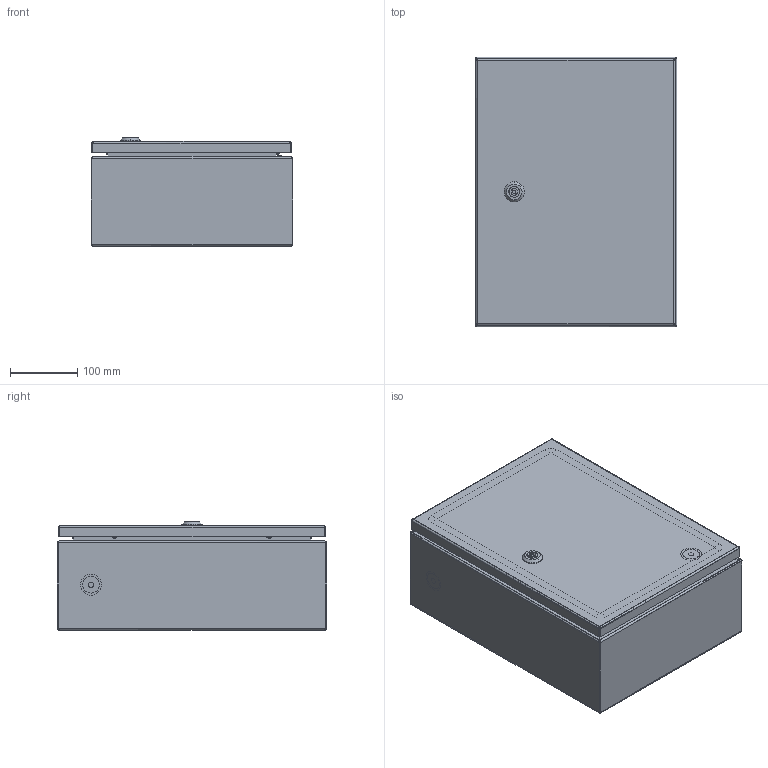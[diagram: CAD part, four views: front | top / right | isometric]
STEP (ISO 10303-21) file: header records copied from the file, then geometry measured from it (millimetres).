
FILE_DESCRIPTION (( 'STEP AP214' ), '1' );
FILE_NAME ('CSS 40.30.15 Êîìïàêòíûé ðàñïðåäåëèòåëüíûé øêàô.STEP', '2025-09-10T06:46:04', ( '' ), ( '' ), 'SwSTEP 2.0', 'SolidWorks 2019', '' );
FILE_SCHEMA (( 'AUTOMOTIVE_DESIGN' ));
Length unit declared in the file: millimetre
Products named in the file (23): hex flange nut_din_Hexagon Flange Nut DIN 6923 - M8 - N; Ïåòëÿ ïðèâàðíàÿ ÷àñòü_íåðæ; Essentra_d6,3_1287228; CSS X.Y.02.001 拟屦黖CSS 40.30; MPC X.Y Ïàíåëü ìîíòàæíàÿ_MPC 40.30; CSS X.Y.02.000蚜 拟屦黖CSS 40.30; Øïèëüêà çàçåìëåíèÿ Ì6õ17,5_˜¯¨«ìª  § §¥¬«¥­¨ï Œ6å17,5 á ª®«¯ çª®¬; CSS X.Y.Z.01.001 扻豵鵨_CSS 40.30.15; Ãàéêà Ì8 DIN 934; Øïèëüêà çàçåìëåíèÿ Ì6õ17,5_˜¯¨«ìª  § §¥¬«¥­¨ï Œ6å17,5; CSS 40.30.15 Êîìïàêòíûé ðàñïðåäåëèòåëüíûé øêàô; KIT_Øòèôò_ô5_Ìîäóëü; ßçû÷îê çàìêà LC 5DB.S; plain washer grade a_din_Washer DIN 125 - A 5.3; CSS X.Y.Z.01.000ÑÁ Êîðïóñ øêàôà ñâàðíîé_CSS 40.30.15; Ïåòëÿ KIT_Ìîäóëü_êîðïóñíàÿ ÷àñòü â ñáîðå; KIT_Çàæèìíîå êîëüöî_ïîëèîêñèìåòèëåí_ô5_EMKA 1031-U16; Øïèëüêà Ì8õ25; Ïåòëÿ KIT_Ìîäóëü_êîðïóñíàÿ ÷àñòü; ﾇ瑟鶴 LC 5DB.S; Çàìîê LC 5DB.S_‡ ¬®ª LC 5DB.S_45mm; pan head cross recess screw_din_DIN EN ISO 7045 - M5 x 6 - Z - 6N
Assembly tree (39 placements, depth 3):
  CSS 40.30.15 Êîìïàêòíûé ðàñïðåäåëèòåëüíûé øêàô
    CSS X.Y.Z.01.000ÑÁ Êîðïóñ øêàôà ñâàðíîé_CSS 40.30.15
      CSS X.Y.Z.01.001 扻豵鵨_CSS 40.30.15
      Øïèëüêà çàçåìëåíèÿ Ì6õ17,5_˜¯¨«ìª  § §¥¬«¥­¨ï Œ6å17,5  x2
      Øïèëüêà Ì8õ25  x4
    CSS X.Y.02.000蚜 拟屦黖CSS 40.30
      CSS X.Y.02.001 拟屦黖CSS 40.30
      Øïèëüêà çàçåìëåíèÿ Ì6õ17,5_˜¯¨«ìª  § §¥¬«¥­¨ï Œ6å17,5 á ª®«¯ çª®¬
      Ïåòëÿ ïðèâàðíàÿ ÷àñòü_íåðæ  x2
    Ïåòëÿ KIT_Ìîäóëü_êîðïóñíàÿ ÷àñòü â ñáîðå
      Ïåòëÿ KIT_Ìîäóëü_êîðïóñíàÿ ÷àñòü
      KIT_Øòèôò_ô5_Ìîäóëü
      KIT_Çàæèìíîå êîëüöî_ïîëèîêñèìåòèëåí_ô5_EMKA 1031-U16
    Ïåòëÿ KIT_Ìîäóëü_êîðïóñíàÿ ÷àñòü â ñáîðå
      Ïåòëÿ KIT_Ìîäóëü_êîðïóñíàÿ ÷àñòü
      KIT_Øòèôò_ô5_Ìîäóëü
      KIT_Çàæèìíîå êîëüöî_ïîëèîêñèìåòèëåí_ô5_EMKA 1031-U16
    pan head cross recess screw_din_DIN EN ISO 7045 - M5 x 6 - Z - 6N  x2
    Ãàéêà Ì8 DIN 934  x4
    hex flange nut_din_Hexagon Flange Nut DIN 6923 - M8 - N  x4
    Çàìîê LC 5DB.S_‡ ¬®ª LC 5DB.S_45mm
      ﾇ瑟鶴 LC 5DB.S
      ßçû÷îê çàìêà LC 5DB.S
    Essentra_d6,3_1287228  x2
    MPC X.Y Ïàíåëü ìîíòàæíàÿ_MPC 40.30
    plain washer grade a_din_Washer DIN 125 - A 5.3  x2
Bounding box: 300 x 400 x 160.5 mm (x, y, z)
Volume: 885930.9 mm3; surface area: 1260854.9 mm2
Topology: 37 solids, 37 shells, 1630 faces, 3911 edges, 2392 vertices
Faces by surface type: cylinder 654, plane 519, cone 208, bspline 146, torus 87, sphere 16
Entity records: 43344 total; most frequent: CARTESIAN_POINT 18950, ORIENTED_EDGE 4916, DIRECTION 4576, EDGE_CURVE 2458, AXIS2_PLACEMENT_3D 1723, VERTEX_POINT 1516, LINE 1130, VECTOR 1130
